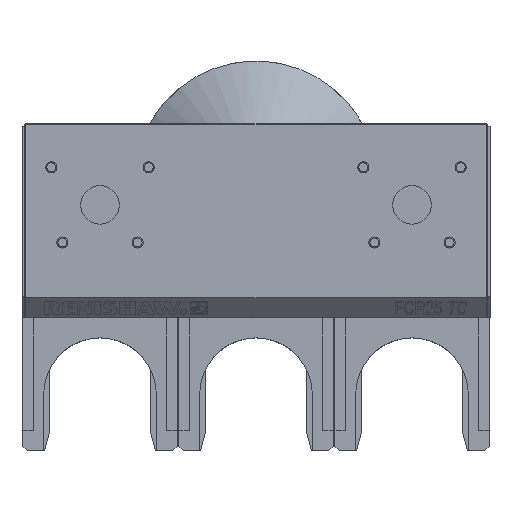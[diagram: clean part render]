
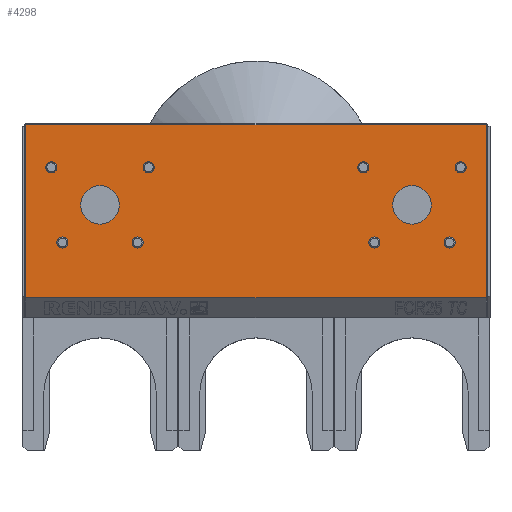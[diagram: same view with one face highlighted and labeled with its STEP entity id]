
A CAD part, top view. The second image highlights one B-rep face of the part: STEP entity #4298.
In plain terms, the highlighted planar face has unit normal (0, 0, 1).
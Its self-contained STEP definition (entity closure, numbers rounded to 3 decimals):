
#3074=LINE('',#13925,#3751);
#3076=LINE('',#13929,#3753);
#3078=LINE('',#13933,#3755);
#3079=LINE('',#13935,#3756);
#3751=VECTOR('',#10969,1.);
#3753=VECTOR('',#10973,1.);
#3755=VECTOR('',#10977,1.);
#3756=VECTOR('',#10980,1.);
#3965=FACE_BOUND('',#5228,.T.);
#3966=FACE_BOUND('',#5229,.T.);
#3967=FACE_BOUND('',#5230,.T.);
#3968=FACE_BOUND('',#5231,.T.);
#3969=FACE_BOUND('',#5232,.T.);
#3970=FACE_BOUND('',#5233,.T.);
#3971=FACE_BOUND('',#5234,.T.);
#3972=FACE_BOUND('',#5235,.T.);
#3973=FACE_BOUND('',#5236,.T.);
#3974=FACE_BOUND('',#5237,.T.);
#3975=FACE_BOUND('',#5238,.T.);
#4298=ADVANCED_FACE('',(#3965,#3966,#3967,#3968,#3969,#3970,#3971,#3972,
#3973,#3974,#3975),#4546,.T.);
#4546=PLANE('',#9343);
#5228=EDGE_LOOP('',(#7067));
#5229=EDGE_LOOP('',(#7068));
#5230=EDGE_LOOP('',(#7069));
#5231=EDGE_LOOP('',(#7070));
#5232=EDGE_LOOP('',(#7071));
#5233=EDGE_LOOP('',(#7072));
#5234=EDGE_LOOP('',(#7073));
#5235=EDGE_LOOP('',(#7074,#7075,#7076,#7077));
#5236=EDGE_LOOP('',(#7078));
#5237=EDGE_LOOP('',(#7079));
#5238=EDGE_LOOP('',(#7080));
#7067=ORIENTED_EDGE('',*,*,#8687,.F.);
#7068=ORIENTED_EDGE('',*,*,#8688,.F.);
#7069=ORIENTED_EDGE('',*,*,#8689,.F.);
#7070=ORIENTED_EDGE('',*,*,#8690,.F.);
#7071=ORIENTED_EDGE('',*,*,#8691,.F.);
#7072=ORIENTED_EDGE('',*,*,#8692,.F.);
#7073=ORIENTED_EDGE('',*,*,#8693,.F.);
#7074=ORIENTED_EDGE('',*,*,#8694,.T.);
#7075=ORIENTED_EDGE('',*,*,#8696,.T.);
#7076=ORIENTED_EDGE('',*,*,#8698,.T.);
#7077=ORIENTED_EDGE('',*,*,#8699,.T.);
#7078=ORIENTED_EDGE('',*,*,#8700,.F.);
#7079=ORIENTED_EDGE('',*,*,#8701,.F.);
#7080=ORIENTED_EDGE('',*,*,#8702,.T.);
#7764=VERTEX_POINT('',#13880);
#7768=VERTEX_POINT('',#13898);
#7770=VERTEX_POINT('',#13905);
#7771=VERTEX_POINT('',#13908);
#7772=VERTEX_POINT('',#13911);
#7773=VERTEX_POINT('',#13914);
#7774=VERTEX_POINT('',#13917);
#7775=VERTEX_POINT('',#13920);
#7776=VERTEX_POINT('',#13923);
#7777=VERTEX_POINT('',#13928);
#7778=VERTEX_POINT('',#13932);
#7779=VERTEX_POINT('',#13938);
#7780=VERTEX_POINT('',#13941);
#7781=VERTEX_POINT('',#13944);
#8687=EDGE_CURVE('',#7770,#7770,#8846,.T.);
#8688=EDGE_CURVE('',#7771,#7771,#8847,.T.);
#8689=EDGE_CURVE('',#7772,#7772,#8848,.T.);
#8690=EDGE_CURVE('',#7773,#7773,#8849,.T.);
#8691=EDGE_CURVE('',#7774,#7774,#8850,.T.);
#8692=EDGE_CURVE('',#7775,#7775,#8851,.T.);
#8693=EDGE_CURVE('',#7776,#7776,#8852,.T.);
#8694=EDGE_CURVE('',#7768,#7764,#3074,.T.);
#8696=EDGE_CURVE('',#7764,#7777,#3076,.T.);
#8698=EDGE_CURVE('',#7777,#7778,#3078,.T.);
#8699=EDGE_CURVE('',#7778,#7768,#3079,.T.);
#8700=EDGE_CURVE('',#7779,#7779,#8853,.T.);
#8701=EDGE_CURVE('',#7780,#7780,#8854,.T.);
#8702=EDGE_CURVE('',#7781,#7781,#8855,.T.);
#8846=CIRCLE('',#9319,1.25);
#8847=CIRCLE('',#9321,1.25);
#8848=CIRCLE('',#9323,1.25);
#8849=CIRCLE('',#9325,1.25);
#8850=CIRCLE('',#9327,1.25);
#8851=CIRCLE('',#9329,1.25);
#8852=CIRCLE('',#9331,1.25);
#8853=CIRCLE('',#9337,4.35);
#8854=CIRCLE('',#9339,4.35);
#8855=CIRCLE('',#9341,1.25);
#9319=AXIS2_PLACEMENT_3D('',#13904,#10941,#10942);
#9321=AXIS2_PLACEMENT_3D('',#13907,#10945,#10946);
#9323=AXIS2_PLACEMENT_3D('',#13910,#10949,#10950);
#9325=AXIS2_PLACEMENT_3D('',#13913,#10953,#10954);
#9327=AXIS2_PLACEMENT_3D('',#13916,#10957,#10958);
#9329=AXIS2_PLACEMENT_3D('',#13919,#10961,#10962);
#9331=AXIS2_PLACEMENT_3D('',#13922,#10965,#10966);
#9337=AXIS2_PLACEMENT_3D('',#13937,#10983,#10984);
#9339=AXIS2_PLACEMENT_3D('',#13940,#10987,#10988);
#9341=AXIS2_PLACEMENT_3D('',#13943,#10991,#10992);
#9343=AXIS2_PLACEMENT_3D('',#13946,#10995,#10996);
#10941=DIRECTION('',(0.,0.,1.));
#10942=DIRECTION('',(0.,-1.,0.));
#10945=DIRECTION('',(0.,0.,1.));
#10946=DIRECTION('',(0.,-1.,0.));
#10949=DIRECTION('',(0.,0.,1.));
#10950=DIRECTION('',(0.,-1.,0.));
#10953=DIRECTION('',(0.,0.,1.));
#10954=DIRECTION('',(0.,-1.,0.));
#10957=DIRECTION('',(0.,0.,1.));
#10958=DIRECTION('',(0.,-1.,0.));
#10961=DIRECTION('',(0.,0.,1.));
#10962=DIRECTION('',(0.,-1.,0.));
#10965=DIRECTION('',(0.,0.,1.));
#10966=DIRECTION('',(0.,-1.,0.));
#10969=DIRECTION('',(1.,0.,0.));
#10973=DIRECTION('',(0.,1.,0.));
#10977=DIRECTION('',(-1.,0.,0.));
#10980=DIRECTION('',(0.,-1.,0.));
#10983=DIRECTION('',(0.,0.,1.));
#10984=DIRECTION('',(0.,-1.,0.));
#10987=DIRECTION('',(0.,0.,1.));
#10988=DIRECTION('',(0.,-1.,0.));
#10991=DIRECTION('',(0.,0.,-1.));
#10992=DIRECTION('',(0.,-1.,0.));
#10995=DIRECTION('',(0.,0.,1.));
#10996=DIRECTION('',(0.,-1.,0.));
#13880=CARTESIAN_POINT('',(87.225,21.75,18.21));
#13898=CARTESIAN_POINT('',(-16.725,21.75,18.21));
#13904=CARTESIAN_POINT('',(-8.5,34.25,18.21));
#13905=CARTESIAN_POINT('',(-8.5,33.,18.21));
#13907=CARTESIAN_POINT('',(-11.,51.25,18.21));
#13908=CARTESIAN_POINT('',(-11.,50.,18.21));
#13910=CARTESIAN_POINT('',(11.,51.25,18.21));
#13911=CARTESIAN_POINT('',(11.,50.,18.21));
#13913=CARTESIAN_POINT('',(8.5,34.25,18.21));
#13914=CARTESIAN_POINT('',(8.5,33.,18.21));
#13916=CARTESIAN_POINT('',(62.,34.25,18.21));
#13917=CARTESIAN_POINT('',(62.,33.,18.21));
#13919=CARTESIAN_POINT('',(79.,34.25,18.21));
#13920=CARTESIAN_POINT('',(79.,33.,18.21));
#13922=CARTESIAN_POINT('',(59.5,51.25,18.21));
#13923=CARTESIAN_POINT('',(59.5,50.,18.21));
#13925=CARTESIAN_POINT('',(35.25,21.75,18.21));
#13928=CARTESIAN_POINT('',(87.225,60.85,18.21));
#13929=CARTESIAN_POINT('',(87.225,60.85,18.21));
#13932=CARTESIAN_POINT('',(-16.725,60.85,18.21));
#13933=CARTESIAN_POINT('',(35.25,60.85,18.21));
#13935=CARTESIAN_POINT('',(-16.725,21.75,18.21));
#13937=CARTESIAN_POINT('',(0.,42.75,18.21));
#13938=CARTESIAN_POINT('',(0.,38.4,18.21));
#13940=CARTESIAN_POINT('',(70.5,42.75,18.21));
#13941=CARTESIAN_POINT('',(70.5,38.4,18.21));
#13943=CARTESIAN_POINT('',(81.5,51.25,18.21));
#13944=CARTESIAN_POINT('',(81.5,50.,18.21));
#13946=CARTESIAN_POINT('',(35.25,39.25,18.21));
